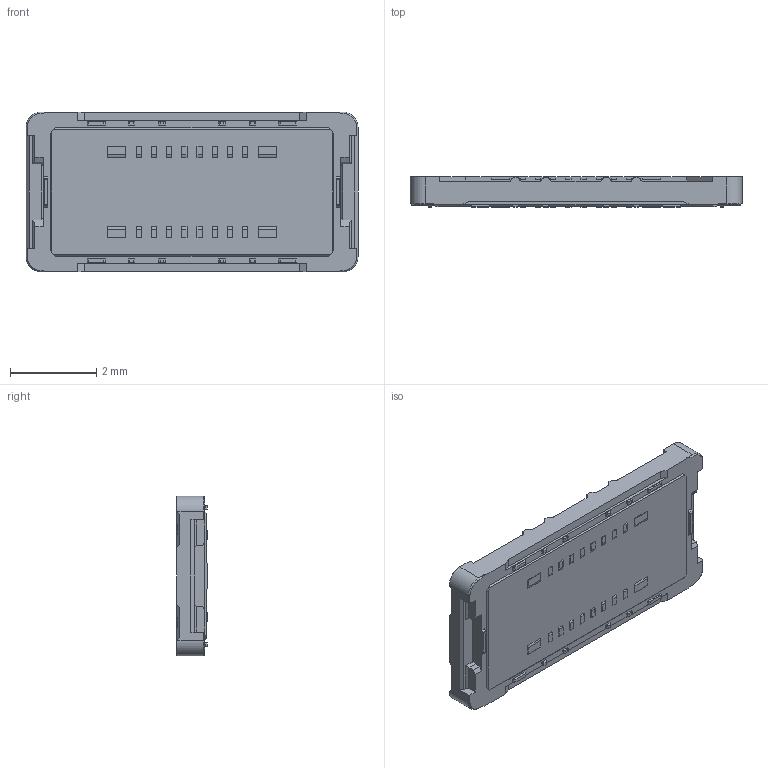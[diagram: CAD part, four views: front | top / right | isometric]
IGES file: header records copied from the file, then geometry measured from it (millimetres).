
Start section: SolidWorks IGES file using analytic representation for surfaces
Global section: file name: C:\3dwork\Watanabe\20240611_NOVASTACK 35-HDP WEB3D\20697-016E-01+20698-016E-01C NOVASTACK 35-HDP MATING IGES R1R2 ALL.IGS; native system: SolidWorks 2023; preprocessor: SolidWorks 2023; author: E1480; date: 240618.105201; units: millimetre
Bounding box: 7.69 x 0.7 x 3.7 mm (x, y, z)
Surface area: 75.1 mm2 (no closed solid volume)
Topology: 0 solids, 0 shells, 489 faces, 2792 edges, 2792 vertices
Faces by surface type: bspline 361, revolution 128
